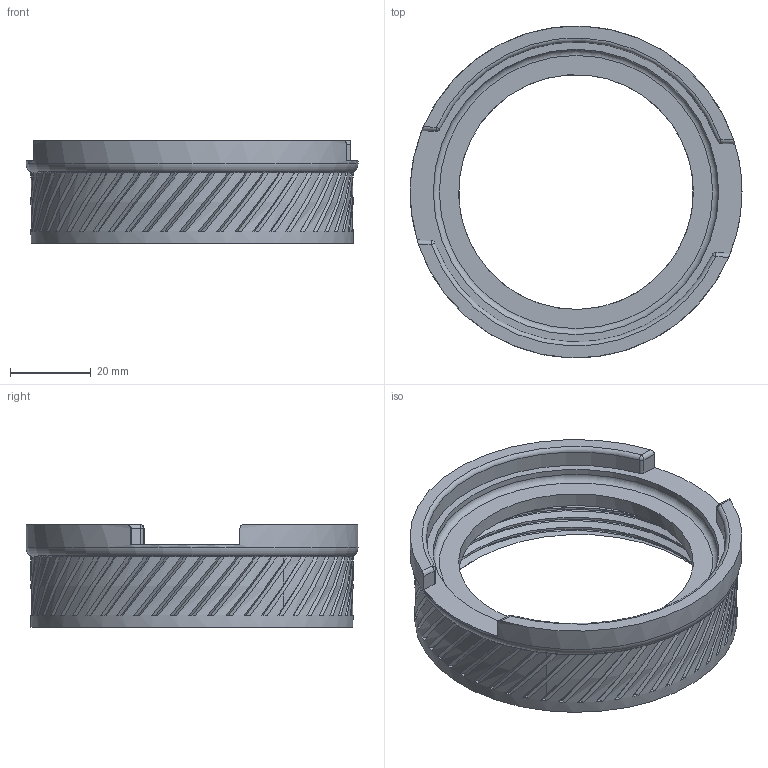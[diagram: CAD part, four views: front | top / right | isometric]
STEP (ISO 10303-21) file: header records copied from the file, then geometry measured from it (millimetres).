
FILE_DESCRIPTION(/* description */ ('STEP AP242','CAx-IF Rec.Pracs.---Representation and Presentation of Product Manufacturing Information (PMI)---4.0---2014-10-13','CAx-IF Rec.Pracs.---3D Tessellated Geometry---0.4---2014-09-14','2;1'),/* implementation_level */ '2;1');
FILE_NAME(/* name */ '6469279dcac4670533c2157b',/* time_stamp */ '2023-05-20T20:03:42Z',/* author */ (''),/* organization */ (''),/* preprocessor_version */ 'ST-DEVELOPER v19.4',/* originating_system */ ' ',/* authorisation */ ' ');
FILE_SCHEMA (('AP242_MANAGED_MODEL_BASED_3D_ENGINEERING_MIM_LF { 1 0 10303 442 1 1 4 }'));
Length unit declared in the file: metre
Products named in the file (1): Base 27mm NoMagnet Lug
Bounding box: 82 x 82 x 25.4 mm (x, y, z)
Volume: 30121.9 mm3; surface area: 17934.8 mm2
Topology: 1 solids, 1 shells, 293 faces, 748 edges, 456 vertices
Faces by surface type: bspline 135, plane 128, cylinder 18, torus 4, cone 4, sphere 4
Full cylindrical faces by diameter (mm): 58 x1, 70.5 x1, 79.6 x1, 82 x1
Entity records: 14749 total; most frequent: CARTESIAN_POINT 9295, ORIENTED_EDGE 1442, DIRECTION 770, EDGE_CURVE 721, VERTEX_POINT 444, AXIS2_PLACEMENT_3D 356, EDGE_LOOP 303, FACE_BOUND 303
